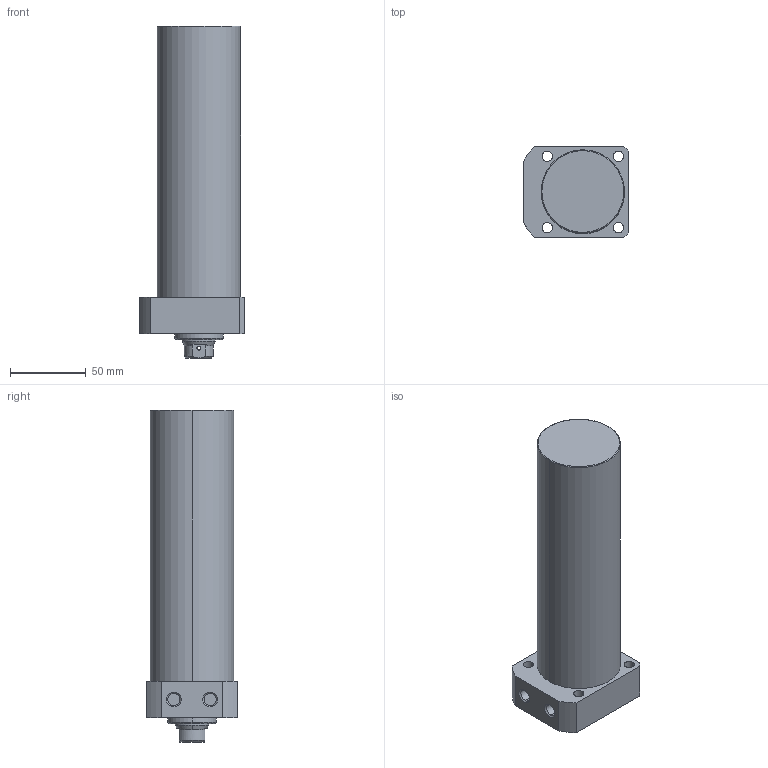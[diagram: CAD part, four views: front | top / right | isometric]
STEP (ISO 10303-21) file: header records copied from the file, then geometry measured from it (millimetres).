
FILE_DESCRIPTION (( 'STEP AP203' ), '1' );
FILE_NAME ('CLLR-055CB-150.STEP', '2019-12-17T12:01:52', ( '' ), ( '' ), 'SwSTEP 2.0', 'SolidWorks 2015', '' );
FILE_SCHEMA (( 'CONFIG_CONTROL_DESIGN' ));
Length unit declared in the file: millimetre
Products named in the file (1): CLLR-055CB-150
Bounding box: 69 x 60 x 219 mm (x, y, z)
Volume: 522858.8 mm3; surface area: 49264.5 mm2
Topology: 1 solids, 1 shells, 69 faces, 162 edges, 101 vertices
Faces by surface type: cylinder 33, plane 19, cone 15, torus 2
Entity records: 2175 total; most frequent: CARTESIAN_POINT 451, DIRECTION 368, ORIENTED_EDGE 320, EDGE_CURVE 160, AXIS2_PLACEMENT_3D 150, VERTEX_POINT 101, EDGE_LOOP 89, CIRCLE 80
